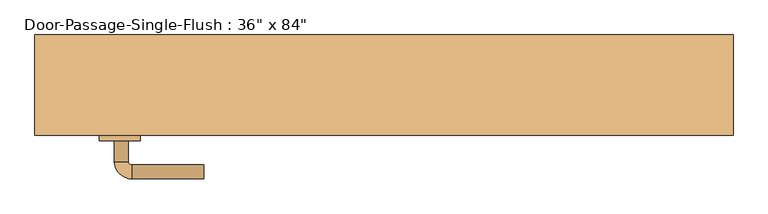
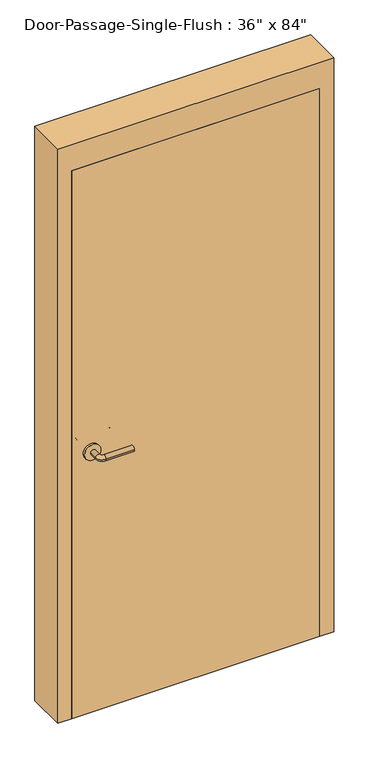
"""IFC4 building model written with IfcOpenShell, lengths in millimetres: door geometry."""

import ifcopenshell
import ifcopenshell.guid

model = None  # the IFC model being written
_history = None  # IfcOwnerHistory: only IFC2X3 demands one
_inside = {}  # id of a spatial element -> (the spatial element, [elements in it])
_under = {}  # id of a project, library or spatial element -> (it, [spatial elements below it])
_declared = {}  # id of a project -> (the project, [libraries it declares])
_typed = {}  # id of a type object -> (the type object, [elements of that type])
_made_of = {}  # id of a material, layer set ... -> (it, [elements and type objects made of it])


def new_model(schema):
    """Start an empty IFC model of exactly this schema.

    Asked for "IFC4X3", IfcOpenShell would pick the latest addendum, in which some entities
    have other attributes; the version numbers below select the first issue.
    IFC2X3 requires an IfcOwnerHistory on every rooted entity: one is made here for all.
    """
    global model, _history
    if schema == "IFC4X3":
        model = ifcopenshell.file(schema_version=(4, 3, 0, 0))
    else:
        model = ifcopenshell.file(schema=schema)
    _inside.clear()
    _under.clear()
    _declared.clear()
    _typed.clear()
    _made_of.clear()
    _history = None
    if model.schema == "IFC2X3":
        org = make("IfcOrganization", Name="unknown")
        user = make(
            "IfcPersonAndOrganization",
            ThePerson=make("IfcPerson", FamilyName="unknown"),
            TheOrganization=org,
        )
        app = make(
            "IfcApplication",
            ApplicationDeveloper=org,
            Version="unknown",
            ApplicationFullName="unknown",
            ApplicationIdentifier="unknown",
        )
        _history = make(
            "IfcOwnerHistory",
            OwningUser=user,
            OwningApplication=app,
            ChangeAction="ADDED",
            CreationDate=0,
        )
    return model


def make(cls, **values):
    """One entity of the class cls with the attributes given. An attribute that is None is left unset."""
    return model.create_entity(
        cls, **{name: value for name, value in values.items() if value is not None}
    )


def rooted(cls, **values):
    """An entity with a GlobalId (a new one), such as an element, a storey or a relation."""
    return make(cls, GlobalId=ifcopenshell.guid.new(), OwnerHistory=_history, **values)


def si_unit(unit_type, name, prefix=None):
    """IfcSIUnit, for example si_unit("LENGTHUNIT", "METRE", prefix="MILLI")."""
    return make("IfcSIUnit", UnitType=unit_type, Prefix=prefix, Name=name)


def assignment(units):
    """IfcUnitAssignment: the units of a project."""
    return None if units is None else make("IfcUnitAssignment", Units=units)


def point(xyz):
    """IfcCartesianPoint."""
    return None if xyz is None else make("IfcCartesianPoint", Coordinates=xyz)


def direction(xyz):
    """IfcDirection."""
    return None if xyz is None else make("IfcDirection", DirectionRatios=xyz)


def frame(location, z_axis=None, x_axis=None):
    """IfcAxis2Placement3D, a coordinate frame: its origin and axes. An axis left out is left unset."""
    return make(
        "IfcAxis2Placement3D",
        Location=point(location),
        Axis=direction(z_axis),
        RefDirection=direction(x_axis),
    )


def frame_2d(location, x_axis=None):
    """IfcAxis2Placement2D, a coordinate frame in the plane: its origin and x axis."""
    return make(
        "IfcAxis2Placement2D", Location=point(location), RefDirection=direction(x_axis)
    )


def origin():
    """The frame at (0, 0, 0) with its axes left unset."""
    return frame((0.0, 0.0, 0.0))


def origin_with_axes():
    """The frame at (0, 0, 0) with the z axis (0, 0, 1) and the x axis (1, 0, 0) written out."""
    return frame((0.0, 0.0, 0.0), z_axis=(0.0, 0.0, 1.0), x_axis=(1.0, 0.0, 0.0))


def place(relative_to, where):
    """IfcLocalPlacement: puts the frame where relative to a parent placement (None: the world)."""
    return make(
        "IfcLocalPlacement", PlacementRelTo=relative_to, RelativePlacement=where
    )


def context(
    kind, dimensions, precision=None, world=None, true_north=None, identifier=None
):
    """IfcGeometricRepresentationContext, for example the 3D "Model" context."""
    return make(
        "IfcGeometricRepresentationContext",
        ContextIdentifier=identifier,
        ContextType=kind,
        CoordinateSpaceDimension=dimensions,
        Precision=precision,
        WorldCoordinateSystem=world,
        TrueNorth=true_north,
    )


def project(units=None, contexts=None):
    """IfcProject with its units and contexts."""
    return rooted(
        "IfcProject",
        Name="project",
        RepresentationContexts=contexts,
        UnitsInContext=assignment(units),
    )


def spatial(cls, under=None, at=None, **own):
    """A site, building, storey or space (cls), placed at a placement, below another one or the project."""
    s = rooted(cls, ObjectPlacement=at, **own)
    if under is not None:
        _under.setdefault(under.id(), (under, []))[1].append(s)
    return s


def polyline(points):
    """IfcPolyline through the points."""
    return make("IfcPolyline", Points=[point(p) for p in points])


def circle_curve(where, radius):
    """IfcCircle in the frame where."""
    return make("IfcCircle", Position=where, Radius=radius)


def ellipse_curve(where, semi_axis1, semi_axis2):
    """IfcEllipse in the frame where."""
    return make(
        "IfcEllipse", Position=where, SemiAxis1=semi_axis1, SemiAxis2=semi_axis2
    )


def trimmed(basis, trim1, trim2, sense, master):
    """IfcTrimmedCurve: the piece of a basis curve between two trims."""
    return make(
        "IfcTrimmedCurve",
        BasisCurve=basis,
        Trim1=trim1,
        Trim2=trim2,
        SenseAgreement=sense,
        MasterRepresentation=master,
    )


def segment(curve, same_sense, transition):
    """IfcCompositeCurveSegment."""
    return make(
        "IfcCompositeCurveSegment",
        Transition=transition,
        SameSense=same_sense,
        ParentCurve=curve,
    )


def composite_curve(segments, self_intersect=None):
    """IfcCompositeCurve: segments joined end to end."""
    return make("IfcCompositeCurve", Segments=segments, SelfIntersect=self_intersect)


def outline(outer, holes=None, kind="AREA"):
    """IfcArbitraryClosedProfileDef: a profile drawn as a closed curve; with holes, ...WithVoids."""
    if holes is None:
        return make("IfcArbitraryClosedProfileDef", ProfileType=kind, OuterCurve=outer)
    return make(
        "IfcArbitraryProfileDefWithVoids",
        ProfileType=kind,
        OuterCurve=outer,
        InnerCurves=holes,
    )


def extrude(swept, where, along, depth):
    """IfcExtrudedAreaSolid: the profile swept, set in the frame where, extruded along a direction by depth."""
    return make(
        "IfcExtrudedAreaSolid",
        SweptArea=swept,
        Position=where,
        ExtrudedDirection=direction(along),
        Depth=depth,
    )


def faces_of(points, faces, orient=None, outer=None):
    """IfcFace entities. A face is a list of loops; a loop is a list of indices into points, from 0.

    orient and outer hold one flag for each loop. By default every Orientation is true, the
    first loop of a face is its IfcFaceOuterBound and the others are IfcFaceBound.
    """
    made = []
    for i, loops in enumerate(faces):
        bounds = []
        for j, loop in enumerate(loops):
            is_outer = j == 0 if outer is None else outer[i][j]
            bounds.append(
                make(
                    "IfcFaceOuterBound" if is_outer else "IfcFaceBound",
                    Bound=make("IfcPolyLoop", Polygon=[points[k] for k in loop]),
                    Orientation=True if orient is None else orient[i][j],
                )
            )
        made.append(make("IfcFace", Bounds=bounds))
    return made


def faceted_brep(points, faces, orient=None, outer=None, voids=None):
    """IfcFacetedBrep: a solid bounded by flat faces; with voids (closed shells), ...WithVoids."""
    shared = [point(p) for p in points]
    hull = make("IfcClosedShell", CfsFaces=faces_of(shared, faces, orient, outer))
    if voids is None:
        return make("IfcFacetedBrep", Outer=hull)
    return make(
        "IfcFacetedBrepWithVoids",
        Outer=hull,
        Voids=[
            make(cls, CfsFaces=faces_of(shared, fs, o, b)) for cls, fs, o, b in voids
        ],
    )


def shape(context_of_items, identifier, shape_type, items):
    """IfcShapeRepresentation: the items that make up one representation, for example the "Body"."""
    return make(
        "IfcShapeRepresentation",
        ContextOfItems=context_of_items,
        RepresentationIdentifier=identifier,
        RepresentationType=shape_type,
        Items=items,
    )


def source(mapping_origin, context_of_items, identifier, shape_type, items):
    """IfcRepresentationMap: a shape defined once, which mapped items show again and again."""
    return make(
        "IfcRepresentationMap",
        MappingOrigin=mapping_origin,
        MappedRepresentation=shape(context_of_items, identifier, shape_type, items),
    )


def transform(
    local_origin,
    x_axis=None,
    y_axis=None,
    z_axis=None,
    scale=None,
    scale2=None,
    scale3=None,
    uniform=True,
):
    """IfcCartesianTransformationOperator3D, or its non-uniform kind. x_axis, y_axis, z_axis: its Axis1, 2, 3."""
    if uniform:
        return make(
            "IfcCartesianTransformationOperator3D",
            Axis1=direction(x_axis),
            Axis2=direction(y_axis),
            LocalOrigin=point(local_origin),
            Scale=scale,
            Axis3=direction(z_axis),
        )
    return make(
        "IfcCartesianTransformationOperator3DnonUniform",
        Axis1=direction(x_axis),
        Axis2=direction(y_axis),
        LocalOrigin=point(local_origin),
        Scale=scale,
        Axis3=direction(z_axis),
        Scale2=scale2,
        Scale3=scale3,
    )


def mapped(mapping_source, mapping_target):
    """IfcMappedItem: shows the shape of a source again, moved by a transform."""
    return make(
        "IfcMappedItem", MappingSource=mapping_source, MappingTarget=mapping_target
    )


def made_of(thing, what):
    """Note that an element or type object is made of a material, layer set ...; save() writes the relation."""
    if what is not None:
        _made_of.setdefault(what.id(), (what, []))[1].append(thing)
    return thing


def element(
    cls,
    number,
    at=None,
    inside=None,
    cuts=None,
    type_object=None,
    material=None,
    context=None,
    identifier="Body",
    shape_type=None,
    held_by="IfcProductDefinitionShape",
    body=None,
    shapes=None,
    **own,
):
    """One element of the class cls, such as IfcWall. Its Tag is "e" and its number.

    at: its placement. inside: the storey or other place that contains it. cuts: it is an
    opening in that element (IfcRelVoidsElement). A single representation is given by context,
    identifier, shape_type and body (its items); several are given by shapes. held_by: the class
    of the entity that holds the representations. save() writes the other relations.
    """
    e = rooted(cls, Tag="e%d" % number, ObjectPlacement=at, **own)
    if body is not None:
        shapes = [shape(context, identifier, shape_type, body)]
    if shapes is not None:
        e.Representation = make(held_by, Representations=shapes)
    if inside is not None:
        _inside.setdefault(inside.id(), (inside, []))[1].append(e)
    if cuts is not None:
        rooted(
            "IfcRelVoidsElement", RelatingBuildingElement=cuts, RelatedOpeningElement=e
        )
    if type_object is not None:
        _typed.setdefault(type_object.id(), (type_object, []))[1].append(e)
    return made_of(e, material)


def aggregate(whole, parts):
    """IfcRelAggregates: a whole, such as a stair, and the parts it consists of."""
    return rooted("IfcRelAggregates", RelatingObject=whole, RelatedObjects=parts)


def save(model, path):
    """Write the relations noted so far, then the file.

    IfcRelAggregates (storeys below a building ...), IfcRelContainedInSpatialStructure (elements
    in a storey), IfcRelDefinesByType, IfcRelAssociatesMaterial and IfcRelDeclares: one each for
    every whole, place, type object, material and project.
    """
    for whole, parts in _under.values():
        aggregate(whole, parts)
    for where, things in _inside.values():
        rooted(
            "IfcRelContainedInSpatialStructure",
            RelatedElements=things,
            RelatingStructure=where,
        )
    for kind, things in _typed.values():
        rooted("IfcRelDefinesByType", RelatedObjects=things, RelatingType=kind)
    for what, things in _made_of.values():
        rooted("IfcRelAssociatesMaterial", RelatedObjects=things, RelatingMaterial=what)
    for by, libraries in _declared.values():
        rooted("IfcRelDeclares", RelatingContext=by, RelatedDefinitions=libraries)
    model.write(path)


def plane_surface(at):
    """IfcPlane: the flat surface through the origin of the frame at, square to its z axis."""
    return make("IfcPlane", Position=at)


def cylinder_surface(at, radius):
    """IfcCylindricalSurface: all points at the distance radius from the z axis of the frame at."""
    return make("IfcCylindricalSurface", Position=at, Radius=radius)


def revolved_surface(curve, axis_point, axis_direction):
    """IfcSurfaceOfRevolution: the curve turned about the line through axis_point along axis_direction."""
    return make(
        "IfcSurfaceOfRevolution",
        SweptCurve=make("IfcArbitraryOpenProfileDef", ProfileType="CURVE", Curve=curve),
        AxisPosition=make("IfcAxis1Placement", Location=point(axis_point), Axis=direction(axis_direction)),
    )


def advanced_brep(points, edges, surfaces, faces):
    """IfcAdvancedBrep: a solid bounded by faces that lie on surfaces and meet in shared edges.

    An edge is (start, end): straight between two places in points (the first is 0);
    or (start, end, curve); or (start, end, curve, False) where it runs against its curve.
    A face is (place in surfaces, loops), or (place, loops, False) where it looks against
    its surface's normal. A loop lists edges by number (the first is 1), with a minus sign
    where the edge is run from its end to its start. The first loop is the outer one.
    """
    corners = [point(p) for p in points]
    vertices = [make("IfcVertexPoint", VertexGeometry=c) for c in corners]
    made = []
    for start, end, *more in edges:
        made.append(
            make(
                "IfcEdgeCurve",
                EdgeStart=vertices[start],
                EdgeEnd=vertices[end],
                EdgeGeometry=more[0] if more else make("IfcPolyline", Points=[corners[start], corners[end]]),
                SameSense=more[1] if len(more) > 1 else True,
            )
        )
    hull = []
    for where, loops, *sense in faces:
        bounds = []
        for j, loop in enumerate(loops):
            ring = [make("IfcOrientedEdge", EdgeElement=made[abs(k) - 1], Orientation=k > 0) for k in loop]
            bounds.append(
                make(
                    "IfcFaceOuterBound" if j == 0 else "IfcFaceBound",
                    Bound=make("IfcEdgeLoop", EdgeList=ring),
                    Orientation=True,
                )
            )
        hull.append(make("IfcAdvancedFace", Bounds=bounds, FaceSurface=surfaces[where], SameSense=sense[0] if sense else True))
    return make("IfcAdvancedBrep", Outer=make("IfcClosedShell", CfsFaces=hull))


def door_f3089612(model_context):
    return source(origin(), model_context, "Body", "SolidModel", [
        advanced_brep(
        [(-392.190625, -30.1, 1016.0), (-372.190625, -30.1, 1016.0), (-392.190625, -0.1, 1016.0), (-372.190625, -0.1, 1016.0), (-367.190625, 4.9, 1016.0), (-367.190625, 24.9, 1016.0), (-262.190625, 24.9, 1016.0), (-262.190625, 4.9, 1016.0)],
        [
            (0, 1, circle_curve(frame((-382.190625, -30.1, 1016.0), z_axis=(0.0, -1.0, 0.0), x_axis=(1.0, 0.0, 0.0)), 10.0)),
            (1, 0, circle_curve(frame((-382.190625, -30.1, 1016.0), z_axis=(0.0, -1.0, 0.0), x_axis=(1.0, 0.0, 0.0)), 10.0)),
            (0, 2),
            (2, 3, circle_curve(frame((-382.190625, -0.1, 1016.0), z_axis=(0.0, -1.0, 0.0), x_axis=(1.0, 0.0, 0.0)), 10.0)),
            (3, 1),
            (3, 2, circle_curve(frame((-382.190625, -0.1, 1016.0), z_axis=(0.0, -1.0, 0.0), x_axis=(1.0, 0.0, 0.0)), 10.0)),
            (4, 3, circle_curve(frame((-367.190625, -0.1, 1016.0), z_axis=(0.0, 0.0, 1.0), x_axis=(-1.0, 0.0, 0.0)), 5.0)),
            (2, 5, circle_curve(frame((-367.190625, -0.1, 1016.0), z_axis=(0.0, 0.0, -1.0), x_axis=(-1.0, 0.0, 0.0)), 25.0)),
            (5, 4, circle_curve(frame((-367.190625, 14.9, 1016.0), z_axis=(-1.0, 0.0, 0.0), x_axis=(0.0, -1.0, 0.0)), 10.0)),
            (4, 5, circle_curve(frame((-367.190625, 14.9, 1016.0), z_axis=(-1.0, 0.0, 0.0), x_axis=(0.0, -1.0, 0.0)), 10.0)),
            (6, 7, circle_curve(frame((-262.190625, 14.9, 1016.0), z_axis=(1.0, 0.0, 0.0), x_axis=(0.0, -1.0, 0.0)), 10.0)),
            (7, 6, circle_curve(frame((-262.190625, 14.9, 1016.0), z_axis=(1.0, 0.0, 0.0), x_axis=(0.0, -1.0, 0.0)), 10.0)),
            (5, 6),
            (7, 4),
        ],
        [
            plane_surface(frame((-382.190625, -30.1, 1016.0), z_axis=(0.0, -1.0, 0.0), x_axis=(0.0, 0.0, 1.0))),
            cylinder_surface(frame((-382.190625, -30.1, 1016.0), z_axis=(0.0, -1.0, 0.0), x_axis=(1.0, 0.0, 0.0)), 10.0),
            revolved_surface(trimmed(ellipse_curve(frame((-382.190625, -0.1, 1016.0), z_axis=(0.0, -1.0, 0.0), x_axis=(1.0, 0.0, 0.0)), 10.0, 10.0), [point((-392.190625, -0.1, 1016.0))], [point((-372.190625, -0.1, 1016.0))], True, "CARTESIAN"), (-367.190625, -0.1, 1016.0), (0.0, 0.0, -1.0)),
            revolved_surface(trimmed(ellipse_curve(frame((-382.190625, -0.1, 1016.0), z_axis=(0.0, -1.0, 0.0), x_axis=(1.0, 0.0, 0.0)), 10.0, 10.0), [point((-372.190625, -0.1, 1016.0))], [point((-392.190625, -0.1, 1016.0))], True, "CARTESIAN"), (-367.190625, -0.1, 1016.0), (0.0, 0.0, -1.0)),
            plane_surface(frame((-262.190625, 14.9, 1016.0), z_axis=(1.0, 0.0, 0.0), x_axis=(0.0, 0.0, 1.0))),
            cylinder_surface(frame((-367.190625, 14.9, 1016.0), z_axis=(-1.0, 0.0, 0.0), x_axis=(0.0, -1.0, 0.0)), 10.0),
        ],
        [
            (0, [[1, 2]]),
            (1, [[-1, 3, 4, 5]]),
            (1, [[-2, -5, 6, -3]]),
            (2, [[7, -4, 8, 9]]),
            (3, [[-8, -6, -7, 10]]),
            (4, [[11, 12]]),
            (5, [[-9, 13, -12, 14]]),
            (5, [[-10, -14, -11, -13]]),
        ],
    ),
        extrude(outline(composite_curve([segment(trimmed(circle_curve(frame_2d((1016.0, -384.690625)), 30.0), [point((1016.0, -414.690625))], [point((1016.0, -354.690625))], False, "CARTESIAN"), True, "CONTINUOUS"), segment(trimmed(circle_curve(frame_2d((1016.0, -384.690625)), 30.0), [point((1016.0, -354.690625))], [point((1016.0, -414.690625))], False, "CARTESIAN"), True, "CONTINUOUS")], self_intersect=False)), frame((0.0, -38.1, 0.0), z_axis=(0.0, 1.0, 0.0), x_axis=(0.0, 0.0, 1.0)), (0.0, 0.0, 1.0), 8.0),
        advanced_brep(
        [(-392.190625, -90.55, 1016.0), (-372.190625, -90.55, 1016.0), (-372.190625, -120.55, 1016.0), (-392.190625, -120.55, 1016.0), (-367.190625, -125.55, 1016.0), (-367.190625, -145.55, 1016.0), (-262.190625, -145.55, 1016.0), (-262.190625, -125.55, 1016.0)],
        [
            (0, 1, circle_curve(frame((-382.190625, -90.55, 1016.0), z_axis=(0.0, 1.0, 0.0), x_axis=(1.0, 0.0, 0.0)), 10.0)),
            (1, 0, circle_curve(frame((-382.190625, -90.55, 1016.0), z_axis=(0.0, 1.0, 0.0), x_axis=(1.0, 0.0, 0.0)), 10.0)),
            (1, 2),
            (2, 3, circle_curve(frame((-382.190625, -120.55, 1016.0), z_axis=(0.0, 1.0, 0.0), x_axis=(1.0, 0.0, 0.0)), 10.0)),
            (3, 0),
            (3, 2, circle_curve(frame((-382.190625, -120.55, 1016.0), z_axis=(0.0, 1.0, 0.0), x_axis=(1.0, 0.0, 0.0)), 10.0)),
            (4, 5, circle_curve(frame((-367.190625, -135.55, 1016.0), z_axis=(-1.0, 0.0, 0.0), x_axis=(0.0, 1.0, 0.0)), 10.0)),
            (5, 3, circle_curve(frame((-367.190625, -120.55, 1016.0), z_axis=(0.0, 0.0, -1.0), x_axis=(-1.0, 0.0, 0.0)), 25.0)),
            (2, 4, circle_curve(frame((-367.190625, -120.55, 1016.0), z_axis=(0.0, 0.0, 1.0), x_axis=(-1.0, 0.0, 0.0)), 5.0)),
            (5, 4, circle_curve(frame((-367.190625, -135.55, 1016.0), z_axis=(-1.0, 0.0, 0.0), x_axis=(0.0, 1.0, 0.0)), 10.0)),
            (6, 7, circle_curve(frame((-262.190625, -135.55, 1016.0), z_axis=(1.0, 0.0, 0.0), x_axis=(0.0, 1.0, 0.0)), 10.0)),
            (7, 6, circle_curve(frame((-262.190625, -135.55, 1016.0), z_axis=(1.0, 0.0, 0.0), x_axis=(0.0, 1.0, 0.0)), 10.0)),
            (4, 7),
            (6, 5),
        ],
        [
            plane_surface(frame((-382.190625, -90.55, 1016.0), z_axis=(0.0, 1.0, 0.0), x_axis=(0.0, 0.0, 1.0))),
            cylinder_surface(frame((-382.190625, -90.55, 1016.0), z_axis=(0.0, 1.0, 0.0), x_axis=(1.0, 0.0, 0.0)), 10.0),
            revolved_surface(trimmed(ellipse_curve(frame((-382.190625, -120.55, 1016.0), z_axis=(0.0, -1.0, 0.0), x_axis=(1.0, 0.0, 0.0)), 10.0, 10.0), [point((-392.190625, -120.55, 1016.0))], [point((-372.190625, -120.55, 1016.0))], True, "CARTESIAN"), (-367.190625, -120.55, 1016.0), (0.0, 0.0, -1.0)),
            revolved_surface(trimmed(ellipse_curve(frame((-382.190625, -120.55, 1016.0), z_axis=(0.0, -1.0, 0.0), x_axis=(1.0, 0.0, 0.0)), 10.0, 10.0), [point((-372.190625, -120.55, 1016.0))], [point((-392.190625, -120.55, 1016.0))], True, "CARTESIAN"), (-367.190625, -120.55, 1016.0), (0.0, 0.0, -1.0)),
            plane_surface(frame((-262.190625, -135.55, 1016.0), z_axis=(1.0, 0.0, 0.0), x_axis=(0.0, 0.0, 1.0))),
            cylinder_surface(frame((-367.190625, -135.55, 1016.0), z_axis=(-1.0, 0.0, 0.0), x_axis=(0.0, 1.0, 0.0)), 10.0),
        ],
        [
            (0, [[1, 2]]),
            (1, [[3, 4, 5, -2]]),
            (1, [[-5, 6, -3, -1]]),
            (2, [[7, 8, -4, 9]]),
            (3, [[10, -9, -6, -8]]),
            (4, [[11, 12]]),
            (5, [[13, -11, 14, -7]]),
            (5, [[-14, -12, -13, -10]]),
        ],
    ),
        extrude(outline(composite_curve([segment(trimmed(circle_curve(frame_2d((1016.0, -384.690625)), 30.0), [point((1016.0, -414.690625))], [point((1016.0, -354.690625))], False, "CARTESIAN"), True, "CONTINUOUS"), segment(trimmed(circle_curve(frame_2d((1016.0, -384.690625)), 30.0), [point((1016.0, -354.690625))], [point((1016.0, -414.690625))], False, "CARTESIAN"), True, "CONTINUOUS")], self_intersect=False)), frame((0.0, -90.55, 0.0), z_axis=(0.0, 1.0, 0.0), x_axis=(0.0, 0.0, 1.0)), (0.0, 0.0, 1.0), 8.0),
        faceted_brep([(457.2, -33.3375, 0.0), (441.325, -33.3375, 0.0), (441.325, 14.2875, 0.0), (457.2, 14.2875, 0.0), (457.2, 63.5, 0.0), (508.0, 63.5, 0.0), (508.0, -82.55, 0.0), (457.2, -82.55, 0.0), (457.2, -82.55, 2133.6), (457.2, -33.3375, 2133.6), (508.0, -82.55, 2235.2), (-508.0, -82.55, 2235.2), (-508.0, -82.55, 0.0), (-457.2, -82.55, 0.0), (-457.2, -82.55, 2133.6), (508.0, 63.5, 2235.2), (457.2, 63.5, 2133.6), (-457.2, 63.5, 2133.6), (-457.2, 63.5, 0.0), (-508.0, 63.5, 0.0), (-508.0, 63.5, 2235.2), (457.2, 14.2875, 2133.6), (441.325, 14.2875, 2117.725), (-441.325, 14.2875, 2117.725), (-441.325, 14.2875, 0.0), (-457.2, 14.2875, 0.0), (-457.2, 14.2875, 2133.6), (441.325, -33.3375, 2117.725), (-457.2, -33.3375, 2133.6), (-457.2, -33.3375, 0.0), (-441.325, -33.3375, 0.0), (-441.325, -33.3375, 2117.725)], [[[0, 1, 2, 3, 4, 5, 6, 7]], [[7, 8, 9, 0]], [[6, 10, 11, 12, 13, 14, 8, 7]], [[5, 15, 10, 6]], [[4, 16, 17, 18, 19, 20, 15, 5]], [[3, 21, 16, 4]], [[2, 22, 23, 24, 25, 26, 21, 3]], [[1, 27, 22, 2]], [[0, 9, 28, 29, 30, 31, 27, 1]], [[8, 14, 28, 9]], [[16, 21, 26, 17]], [[22, 27, 31, 23]], [[12, 19, 18, 25, 24, 30, 29, 13]], [[13, 29, 28, 14]], [[11, 20, 19, 12]], [[17, 26, 25, 18]], [[23, 31, 30, 24]], [[15, 20, 11, 10]]]),
        extrude(outline(polyline([(457.2, -38.1), (457.2, -82.55), (-457.2, -82.55), (-457.2, -38.1), (457.2, -38.1)])), origin_with_axes(), (0.0, 0.0, 1.0), 2133.6),
    ])


if __name__ == "__main__":
    model = new_model("IFC4")
    model_context = context("Model", 3, world=origin())
    ifc_project = project(units=[si_unit("LENGTHUNIT", "METRE", prefix="MILLI")], contexts=[model_context])
    site = spatial("IfcSite", under=ifc_project)
    building = spatial("IfcBuilding", under=site)
    placement = place(None, origin())
    door_shape = door_f3089612(model_context)
    element("IfcDoor", 1, ObjectType="Door-Passage-Single-Flush : 36\" x 84\"", at=placement, inside=building, context=model_context, shape_type="MappedRepresentation", body=[
        mapped(door_shape, transform((0.0, 0.0, 0.0), x_axis=(1.0, 0.0, 0.0), y_axis=(0.0, 1.0, 0.0), z_axis=(0.0, 0.0, 1.0))),
    ])
    save(model, "model.ifc")
